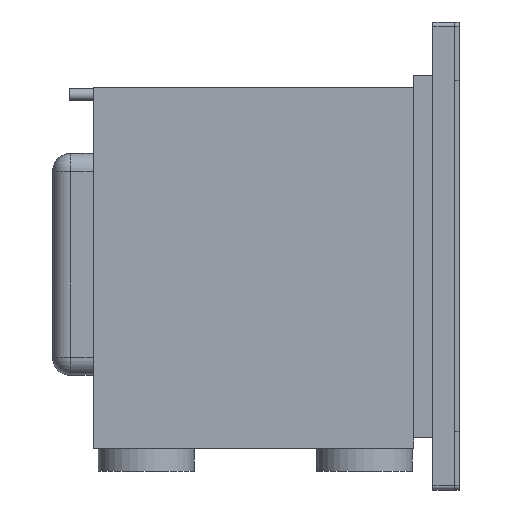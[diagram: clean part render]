
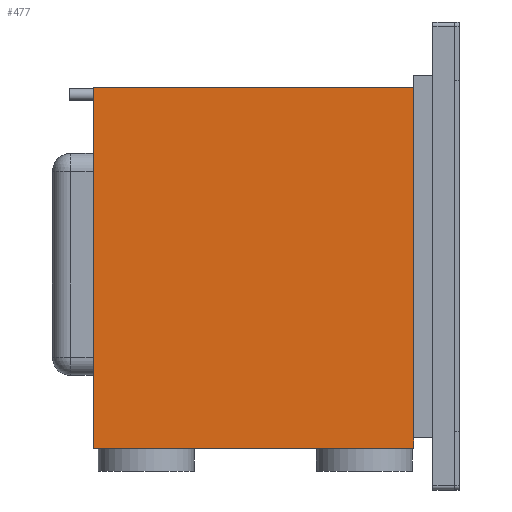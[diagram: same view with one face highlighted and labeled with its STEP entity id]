
A CAD part, left-side view. The second image highlights one B-rep face of the part: STEP entity #477.
In plain terms, the highlighted planar face has unit normal (-1, 0, 0).
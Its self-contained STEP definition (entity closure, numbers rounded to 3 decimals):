
#308=FACE_OUTER_BOUND('',#1396,.T.);
#477=ADVANCED_FACE('',(#308),#665,.F.);
#665=PLANE('',#3210);
#784=LINE('',#4348,#1061);
#792=LINE('',#4373,#1069);
#795=LINE('',#4379,#1072);
#796=LINE('',#4380,#1073);
#797=LINE('',#4382,#1074);
#1061=VECTOR('',#3491,1.);
#1069=VECTOR('',#3509,1.);
#1072=VECTOR('',#3514,1.);
#1073=VECTOR('',#3515,1.);
#1074=VECTOR('',#3516,1.);
#1396=EDGE_LOOP('',(#1621,#1622,#1623,#1624,#1625));
#1621=ORIENTED_EDGE('',*,*,#2707,.T.);
#1622=ORIENTED_EDGE('',*,*,#2704,.F.);
#1623=ORIENTED_EDGE('',*,*,#2708,.F.);
#1624=ORIENTED_EDGE('',*,*,#2709,.F.);
#1625=ORIENTED_EDGE('',*,*,#2692,.T.);
#2418=VERTEX_POINT('',#4347);
#2419=VERTEX_POINT('',#4349);
#2429=VERTEX_POINT('',#4371);
#2431=VERTEX_POINT('',#4374);
#2433=VERTEX_POINT('',#4381);
#2692=EDGE_CURVE('',#2419,#2418,#784,.T.);
#2704=EDGE_CURVE('',#2429,#2431,#792,.T.);
#2707=EDGE_CURVE('',#2418,#2431,#795,.T.);
#2708=EDGE_CURVE('',#2433,#2429,#796,.T.);
#2709=EDGE_CURVE('',#2419,#2433,#797,.T.);
#3210=AXIS2_PLACEMENT_3D('',#4383,#3517,#3518);
#3491=DIRECTION('',(0.,0.,-1.));
#3509=DIRECTION('',(0.,0.,-1.));
#3514=DIRECTION('',(0.,-1.,0.));
#3515=DIRECTION('',(0.,0.,-1.));
#3516=DIRECTION('',(0.,-1.,0.));
#3517=DIRECTION('',(1.,0.,0.));
#3518=DIRECTION('',(0.,0.,-1.));
#4347=CARTESIAN_POINT('',(-367.103,155.214,0.));
#4348=CARTESIAN_POINT('',(-367.103,155.214,301.));
#4349=CARTESIAN_POINT('',(-367.103,155.214,301.));
#4371=CARTESIAN_POINT('',(-367.103,-111.786,9.));
#4373=CARTESIAN_POINT('',(-367.103,-111.786,301.));
#4374=CARTESIAN_POINT('',(-367.103,-111.786,0.));
#4379=CARTESIAN_POINT('',(-367.103,155.214,0.));
#4380=CARTESIAN_POINT('',(-367.103,-111.786,301.));
#4381=CARTESIAN_POINT('',(-367.103,-111.786,301.));
#4382=CARTESIAN_POINT('',(-367.103,155.214,301.));
#4383=CARTESIAN_POINT('',(-367.103,155.214,301.));
